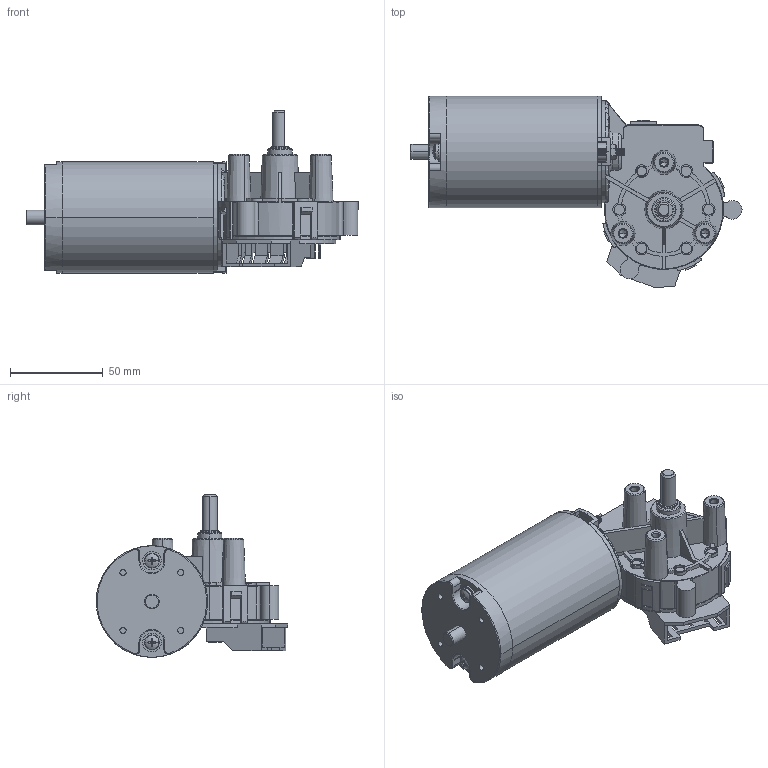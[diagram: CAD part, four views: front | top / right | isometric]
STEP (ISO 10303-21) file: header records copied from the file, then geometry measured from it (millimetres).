
FILE_DESCRIPTION (( 'STEP AP214' ), '1' );
FILE_NAME ('WG5539-LABLE.STEP', '2017-06-13T05:58:10', ( 'Sky123.Org' ), ( 'Sky123.Org' ), 'SwSTEP 2.0', 'SolidWorks 2015', '' );
FILE_SCHEMA (( 'AUTOMOTIVE_DESIGN' ));
Length unit declared in the file: millimetre
Products named in the file (7): M4 L100_B18.6.7M - M4 x 0.7 x 25 Type I Cross Recessed PHMS --25S; flat washer narrow_am_B18.22M - Plain washer, 4 mm, narrow; hexagon nut style 1_ab_jis_JIS B 1181 Hexagon nut - style 1 A M4 - W --N; 渦5009馬達; 塑膠套板; 渦5009齒輪箱; WG5539-LABLE
Assembly tree (9 placements, depth 2):
  WG5539-LABLE
    渦5009齒輪箱
    塑膠套板
    渦5009馬達
    hexagon nut style 1_ab_jis_JIS B 1181 Hexagon nut - style 1 A M4 - W --N  x2
    flat washer narrow_am_B18.22M - Plain washer, 4 mm, narrow  x2
    M4 L100_B18.6.7M - M4 x 0.7 x 25 Type I Cross Recessed PHMS --25S  x2
Bounding box: 178.7 x 103.15 x 87.5 mm (x, y, z)
Volume: 189393.9 mm3; surface area: 108327.6 mm2
Topology: 45 solids, 45 shells, 1341 faces, 3465 edges, 2203 vertices
Faces by surface type: cylinder 496, plane 425, cone 374, torus 31, bspline 11, sphere 4
Entity records: 39818 total; most frequent: CARTESIAN_POINT 11934, DIRECTION 5745, ORIENTED_EDGE 5502, EDGE_CURVE 2751, AXIS2_PLACEMENT_3D 2153, VERTEX_POINT 1765, VECTOR 1439, LINE 1439
